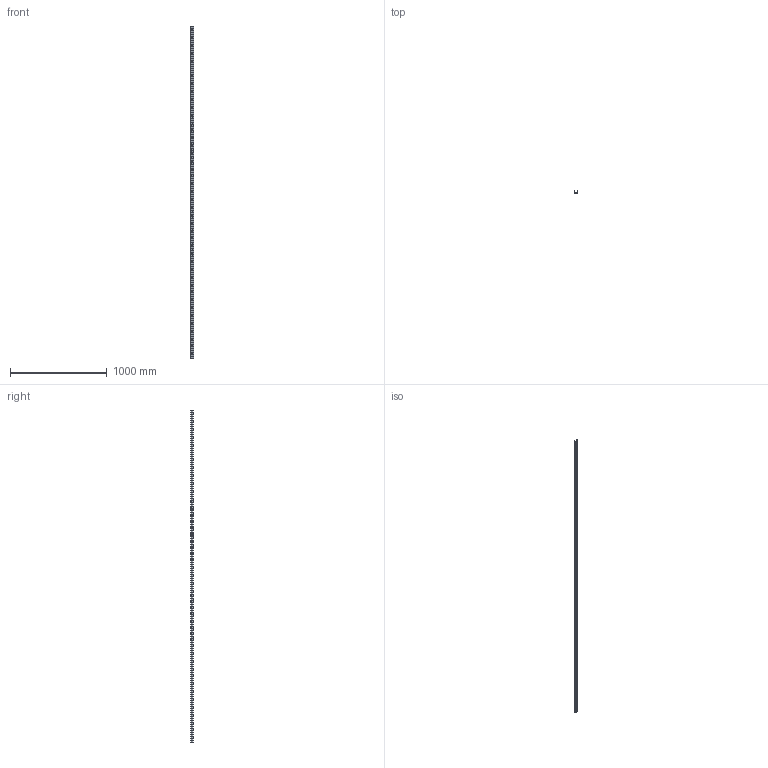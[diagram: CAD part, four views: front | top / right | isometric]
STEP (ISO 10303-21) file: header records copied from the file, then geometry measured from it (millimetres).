
FILE_DESCRIPTION(('STEP AP214'),'1');
FILE_NAME('rail_tex40-3440.stp','2019-03-08T08:33:56',('TraceParts'),('TraceParts S.A.'),'Spatial InterOp 3D',' ',' ');
FILE_SCHEMA(('automotive_design'));
Length unit declared in the file: millimetre
Products named in the file (1): rail_tex40-3440
Bounding box: 39.53 x 21 x 3440 mm (x, y, z)
Volume: 672581.3 mm3; surface area: 473642.5 mm2
Topology: 1 solids, 1 shells, 739 faces, 1914 edges, 1276 vertices
Faces by surface type: plane 520, bspline 121, cylinder 98
Entity records: 46963 total; most frequent: CARTESIAN_POINT 23367, ORIENTED_EDGE 3828, DIRECTION 3106, EDGE_CURVE 1914, LINE 1476, VECTOR 1476, VERTEX_POINT 1276, EDGE_LOOP 924
